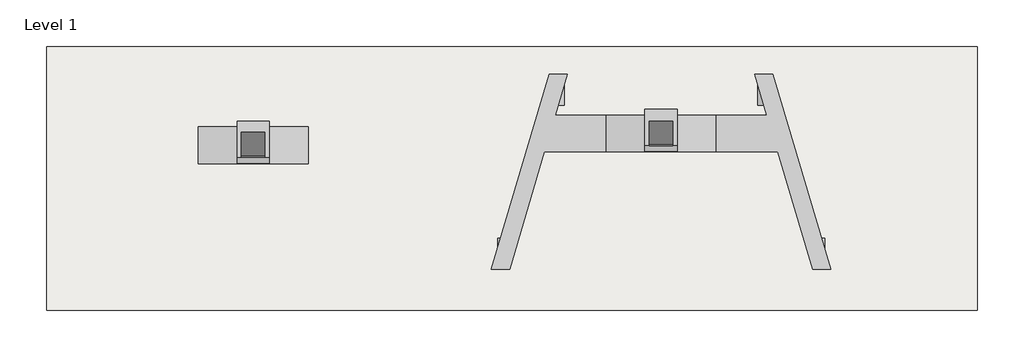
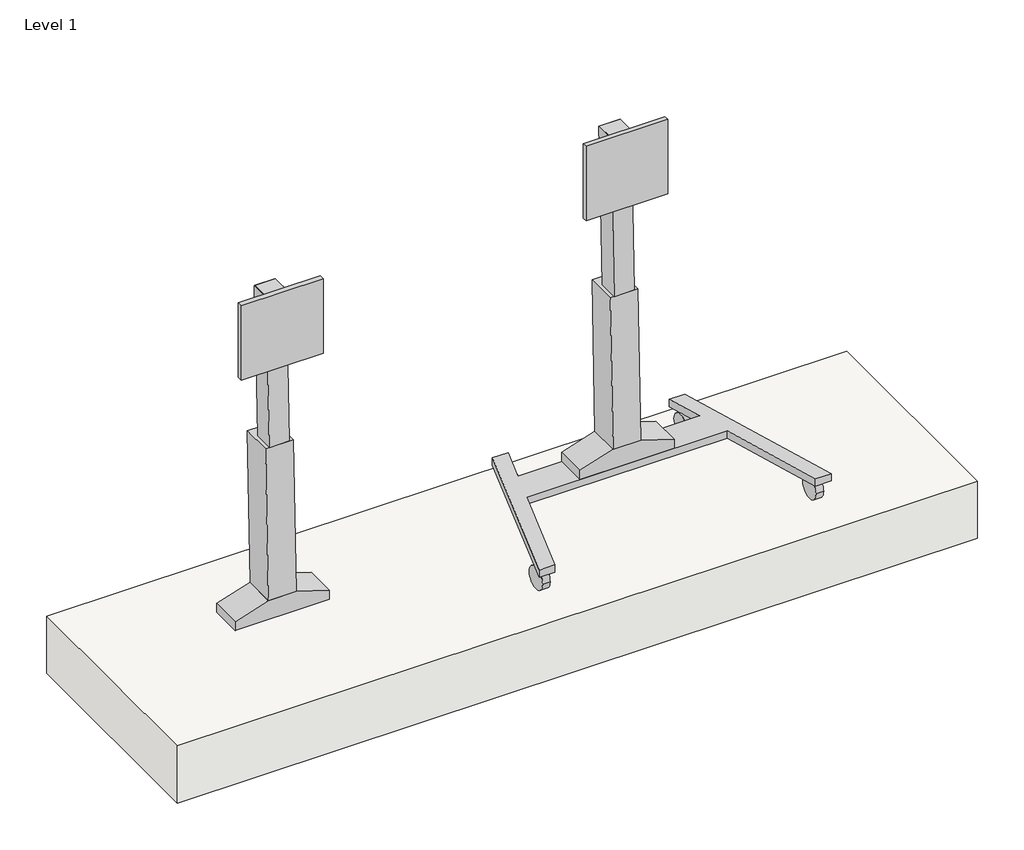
# One storey: 2 proxies, 1 slab.
"""IFC4 building model written with IfcOpenShell, lengths in millimetres."""

from ifc_helpers import new_model, si_unit, frame, origin, place, context, project, spatial, polyline, outline, extrude, transform, mapped, element, save
from components import video_cart_6cb45a0d, video_stand_8438372e

model = new_model("IFC4")

# Units and contexts
model_context = context("Model", 3, world=origin())
ifc_project = project(units=[si_unit("LENGTHUNIT", "METRE", prefix="MILLI")], contexts=[model_context])

# Site, building, storey
site = spatial("IfcSite", under=ifc_project)
building = spatial("IfcBuilding", under=site)
storey = spatial("IfcBuildingStorey", under=building, Name="Level 1", Elevation=0.0)

# Proxies
placement = place(None, origin())
video_cart_shape = video_cart_6cb45a0d(model_context)
element("IfcBuildingElementProxy", 1, Name="Flat_Panel_Mount-Chief-Floor_Support-Large_Capacity : Video Cart", ObjectType="Flat_Panel_Mount-Chief-Floor_Support-Large_Capacity : Video Cart", at=placement, inside=storey, context=model_context, shape_type="MappedRepresentation", body=[
    mapped(video_cart_shape, transform((3387.0771617, 2474.1834432, 0.0), x_axis=(1.0, 0.0, 0.0), y_axis=(0.0, 1.0, 0.0), z_axis=(0.0, 0.0, 1.0))),
])
video_stand_shape = video_stand_8438372e(model_context)
element("IfcBuildingElementProxy", 2, Name="Flat_Panel_Mount-Chief-Floor_Support-Large_Capacity : Video Stand", ObjectType="Flat_Panel_Mount-Chief-Floor_Support-Large_Capacity : Video Stand", at=placement, inside=storey, context=model_context, shape_type="MappedRepresentation", body=[
    mapped(video_stand_shape, transform((1617.3123829, 2422.4486369, 0.0), x_axis=(1.0, 0.0, 0.0), y_axis=(0.0, 1.0, 0.0), z_axis=(0.0, 0.0, 1.0))),
])

# Slab
element("IfcSlab", 3, ObjectType="Generic - 12\"", at=placement, inside=storey, context=model_context, shape_type="SweptSolid", body=[
    extrude(outline(polyline([(4759.7659543, 2825.8758812), (4759.7659543, 1682.8758812), (721.1659543, 1682.8758812), (721.1659543, 2825.8758812), (4759.7659543, 2825.8758812)])), frame((0.0, 0.0, -304.8), z_axis=(0.0, 0.0, 1.0), x_axis=(1.0, 0.0, 0.0)), (0.0, 0.0, 1.0), 304.8),
])

save(model, "model.ifc")
